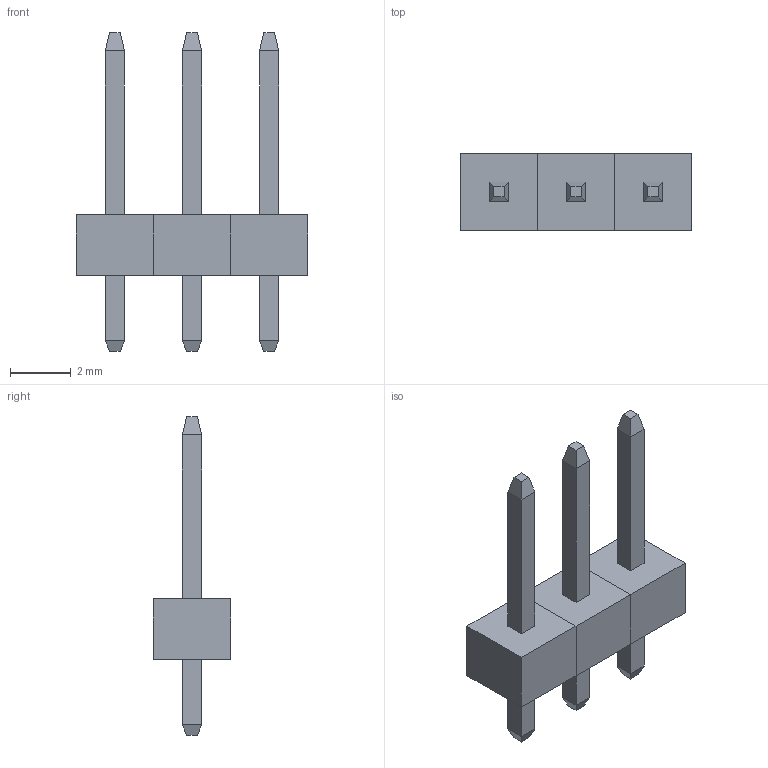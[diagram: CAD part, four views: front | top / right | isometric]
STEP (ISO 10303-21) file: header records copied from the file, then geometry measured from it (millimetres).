
FILE_DESCRIPTION(('shape.step'),'2;1');
FILE_NAME('shape.step','2026-11-03',('tscircuit'),('tscircuit'),'generator','','');
FILE_SCHEMA(('AUTOMOTIVE_DESIGN { 1 0 10303 214 1 1 1 1 }'));
Length unit declared in the file: millimetre
Products named in the file (1): shape
Bounding box: 7.62 x 2.54 x 10.5 mm (x, y, z)
Volume: 49.1 mm3; surface area: 169.9 mm2
Topology: 9 solids, 9 shells, 78 faces, 156 edges, 96 vertices
Faces by surface type: plane 78
Entity records: 1858 total; most frequent: DIRECTION 314, ORIENTED_EDGE 312, CARTESIAN_POINT 175, VECTOR 156, LINE 156, EDGE_CURVE 156, VERTEX_POINT 96, AXIS2_PLACEMENT_3D 79
